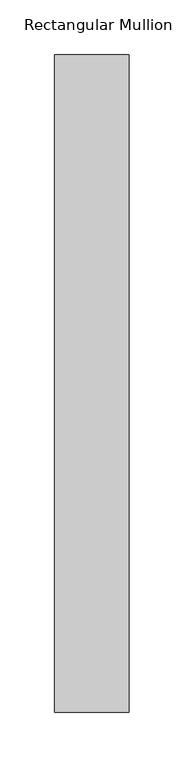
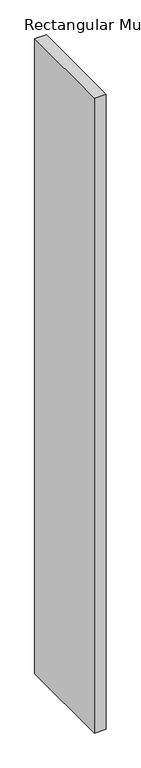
"""IFC4 building model written with IfcOpenShell, lengths in millimetres: member geometry, Rectangular Mullion : DucoSun Cubic Design louvre 600."""

from ifc_helpers import new_model, si_unit, frame, origin, place, context, project, spatial, polyline, outline, extrude, source, transform, mapped, element, save


def rectangular_mullion_acc3b66f(model_context):
    return source(origin(), model_context, "Body", "SweptSolid", [
        extrude(outline(polyline([(34.0, -600.0), (-34.0, -600.0), (-34.0, 0.0), (34.0, 0.0), (34.0, -600.0)])), frame((0.0, 0.0, -3900.0), z_axis=(0.0, 0.0, 1.0), x_axis=(1.0, 0.0, 0.0)), (0.0, 0.0, 1.0), 3900.0),
    ])


if __name__ == "__main__":
    model = new_model("IFC4")
    model_context = context("Model", 3, world=origin())
    ifc_project = project(units=[si_unit("LENGTHUNIT", "METRE", prefix="MILLI")], contexts=[model_context])
    site = spatial("IfcSite", under=ifc_project)
    building = spatial("IfcBuilding", under=site)
    placement = place(None, origin())
    rectangular_mullion_shape = rectangular_mullion_acc3b66f(model_context)
    element("IfcMember", 1, ObjectType="Rectangular Mullion : DucoSun Cubic Design louvre 600", at=placement, inside=building, context=model_context, shape_type="MappedRepresentation", body=[
        mapped(rectangular_mullion_shape, transform((0.0, 0.0, 0.0), x_axis=(1.0, 0.0, 0.0), y_axis=(0.0, 1.0, 0.0), z_axis=(0.0, 0.0, 1.0))),
    ])
    save(model, "model.ifc")
